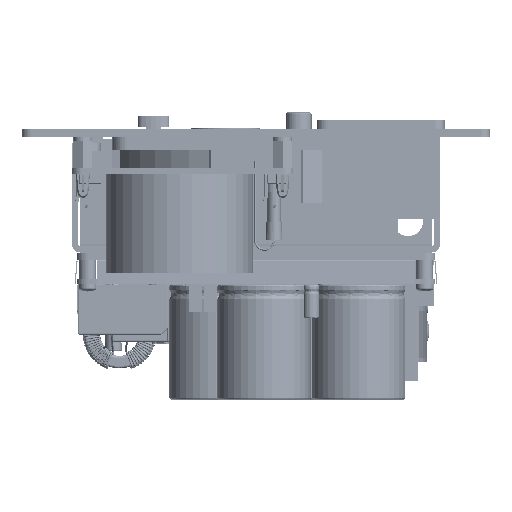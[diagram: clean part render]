
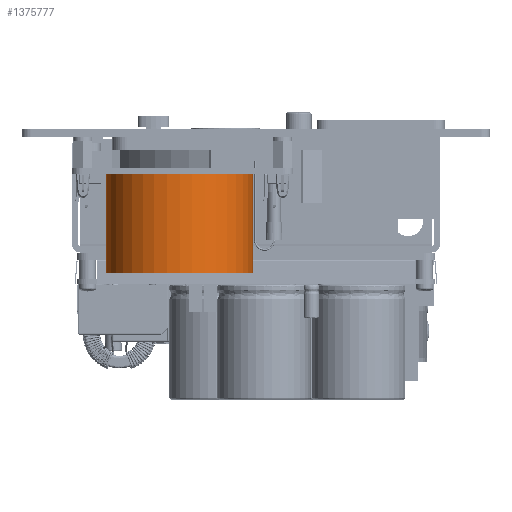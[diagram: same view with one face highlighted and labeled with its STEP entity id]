
A CAD part, front view. The second image highlights one B-rep face of the part: STEP entity #1375777.
In plain terms, the highlighted cylindrical face has radius 23.5 mm (diameter 47 mm), a partial arc.
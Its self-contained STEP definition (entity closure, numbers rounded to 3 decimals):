
#33351 = DIRECTION ( 'NONE',  ( -1., 0., 0. ) ) ;
#52521 = CARTESIAN_POINT ( 'NONE',  ( 13., 24.5, 32. ) ) ;
#64937 = CIRCLE ( 'NONE', #819564, 23.5 ) ;
#91438 = VECTOR ( 'NONE', #1005302, 1000. ) ;
#118461 = EDGE_CURVE ( 'NONE', #575515, #1167533, #665698, .T. ) ;
#127408 = EDGE_CURVE ( 'NONE', #575515, #379642, #1243072, .T. ) ;
#137382 = CARTESIAN_POINT ( 'NONE',  ( 13., 24.5, 0. ) ) ;
#141816 = CARTESIAN_POINT ( 'NONE',  ( 60., 24.5, 0. ) ) ;
#146480 = DIRECTION ( 'NONE',  ( 0., 0., -1. ) ) ;
#151877 = VECTOR ( 'NONE', #1118670, 1000. ) ;
#219270 = AXIS2_PLACEMENT_3D ( 'NONE', #792947, #146480, #33351 ) ;
#267206 = CARTESIAN_POINT ( 'NONE',  ( 36.5, 24.5, 0. ) ) ;
#324027 = EDGE_CURVE ( 'NONE', #380972, #1167533, #64937, .T. ) ;
#363224 = DIRECTION ( 'NONE',  ( 0., 0., -1. ) ) ;
#379642 = VERTEX_POINT ( 'NONE', #52521 ) ;
#380972 = VERTEX_POINT ( 'NONE', #1281707 ) ;
#384750 = ORIENTED_EDGE ( 'NONE', *, *, #690783, .T. ) ;
#456451 = LINE ( 'NONE', #137382, #151877 ) ;
#575515 = VERTEX_POINT ( 'NONE', #1315022 ) ;
#665698 = LINE ( 'NONE', #141816, #91438 ) ;
#683050 = AXIS2_PLACEMENT_3D ( 'NONE', #1321148, #363224, #1335076 ) ;
#690783 = EDGE_CURVE ( 'NONE', #379642, #380972, #456451, .T. ) ;
#715457 = DIRECTION ( 'NONE',  ( -1., 0., 0. ) ) ;
#724521 = CYLINDRICAL_SURFACE ( 'NONE', #683050, 23.5 ) ;
#792947 = CARTESIAN_POINT ( 'NONE',  ( 36.5, 24.5, 32. ) ) ;
#809698 = FACE_OUTER_BOUND ( 'NONE', #1283122, .T. ) ;
#819564 = AXIS2_PLACEMENT_3D ( 'NONE', #267206, #1243967, #715457 ) ;
#848632 = CARTESIAN_POINT ( 'NONE',  ( 60., 24.5, 0. ) ) ;
#892368 = ORIENTED_EDGE ( 'NONE', *, *, #118461, .F. ) ;
#984681 = ORIENTED_EDGE ( 'NONE', *, *, #127408, .T. ) ;
#1005302 = DIRECTION ( 'NONE',  ( 0., 0., -1. ) ) ;
#1118670 = DIRECTION ( 'NONE',  ( 0., 0., -1. ) ) ;
#1167533 = VERTEX_POINT ( 'NONE', #848632 ) ;
#1175721 = ORIENTED_EDGE ( 'NONE', *, *, #324027, .T. ) ;
#1243072 = CIRCLE ( 'NONE', #219270, 23.5 ) ;
#1243967 = DIRECTION ( 'NONE',  ( 0., 0., 1. ) ) ;
#1281707 = CARTESIAN_POINT ( 'NONE',  ( 13., 24.5, 0. ) ) ;
#1283122 = EDGE_LOOP ( 'NONE', ( #892368, #984681, #384750, #1175721 ) ) ;
#1315022 = CARTESIAN_POINT ( 'NONE',  ( 60., 24.5, 32. ) ) ;
#1321148 = CARTESIAN_POINT ( 'NONE',  ( 36.5, 24.5, 0. ) ) ;
#1335076 = DIRECTION ( 'NONE',  ( -1., 0., 0. ) ) ;
#1375777 = ADVANCED_FACE ( 'NONE', ( #809698 ), #724521, .T. ) ;
